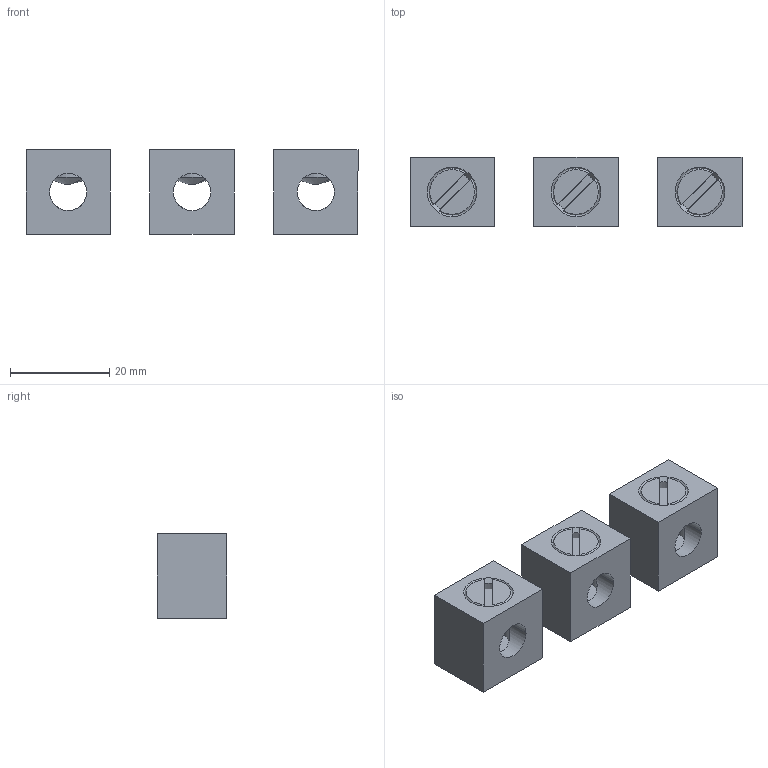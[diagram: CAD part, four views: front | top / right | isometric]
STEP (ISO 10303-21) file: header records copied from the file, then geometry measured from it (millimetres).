
FILE_DESCRIPTION (( 'STEP AP214' ), '1' );
FILE_NAME ('OptiMat E100 êîëîäêè 16-50 íèæíèå.STEP', '2023-11-09T11:51:07', ( '' ), ( '' ), 'SwSTEP 2.0', 'SolidWorks 2018', '' );
FILE_SCHEMA (( 'AUTOMOTIVE_DESIGN' ));
Length unit declared in the file: millimetre
Products named in the file (4): Êîëîäêà ÃÆÈÊ.731173.008_ƒ†ˆŠ.731173.008; OptiMat E100 êîëîäêè 16-50 íèæíèå; 妈眚 闷仁.758211.007_儐垔.758211.007; E100 16-50   Êîëîäêà ÃÆÈÊ.687229.008_ƒ†ˆŠ.687229.008
Assembly tree (5 placements, depth 3):
  OptiMat E100 êîëîäêè 16-50 íèæíèå
    E100 16-50   Êîëîäêà ÃÆÈÊ.687229.008_ƒ†ˆŠ.687229.008  x3
      Êîëîäêà ÃÆÈÊ.731173.008_ƒ†ˆŠ.731173.008
      妈眚 闷仁.758211.007_儐垔.758211.007
Bounding box: 67 x 14 x 17 mm (x, y, z)
Volume: 10311.5 mm3; surface area: 6692.8 mm2
Topology: 6 solids, 6 shells, 96 faces, 240 edges, 153 vertices
Faces by surface type: plane 39, cylinder 30, cone 27
Entity records: 1335 total; most frequent: CARTESIAN_POINT 344, DIRECTION 179, ORIENTED_EDGE 160, EDGE_CURVE 80, AXIS2_PLACEMENT_3D 70, VERTEX_POINT 51, VECTOR 39, LINE 39
